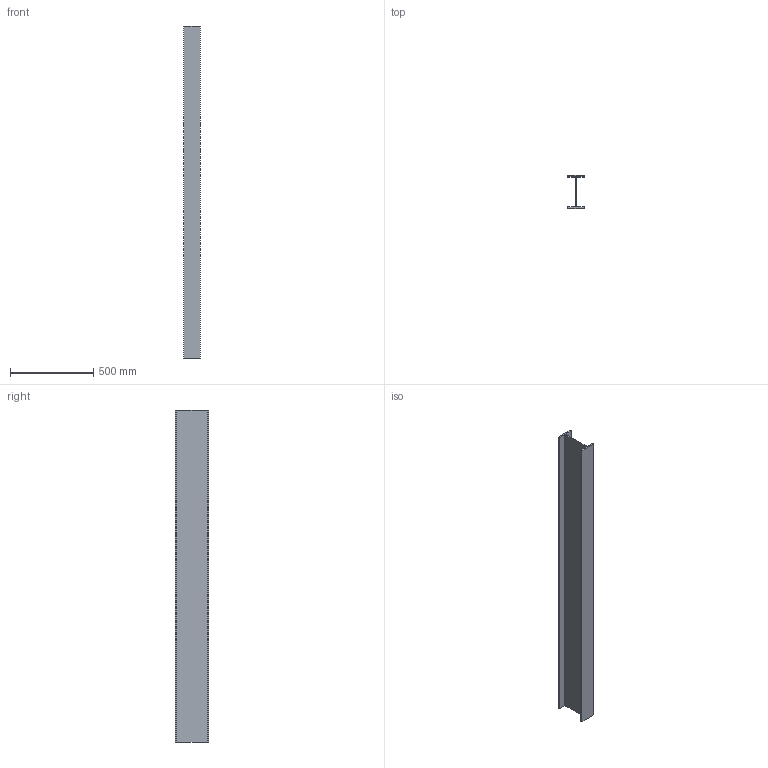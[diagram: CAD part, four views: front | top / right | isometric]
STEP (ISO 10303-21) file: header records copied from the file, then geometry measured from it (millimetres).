
FILE_DESCRIPTION(('Open CASCADE Model'),'2;1');
FILE_NAME('Open CASCADE Shape Model','2026-10-19T10:09:18',('Author'),( 'Open CASCADE'),'Open CASCADE STEP processor 8.0','Open CASCADE 8.0' ,'Unknown');
FILE_SCHEMA(('AUTOMOTIVE_DESIGN { 1 0 10303 214 1 1 1 1 }'));
Length unit declared in the file: millimetre
Products named in the file (1): IPE200_L2000000_P05 2
Bounding box: 100 x 200 x 2000 mm (x, y, z)
Volume: 5449600 mm3; surface area: 1583049.6 mm2
Topology: 1 solids, 1 shells, 14 faces, 36 edges, 24 vertices
Faces by surface type: plane 14
Entity records: 898 total; most frequent: CARTESIAN_POINT 147, DIRECTION 138, LINE 108, VECTOR 108, ORIENTED_EDGE 72, PCURVE 72, DEFINITIONAL_REPRESENTATION 72, EDGE_CURVE 36
